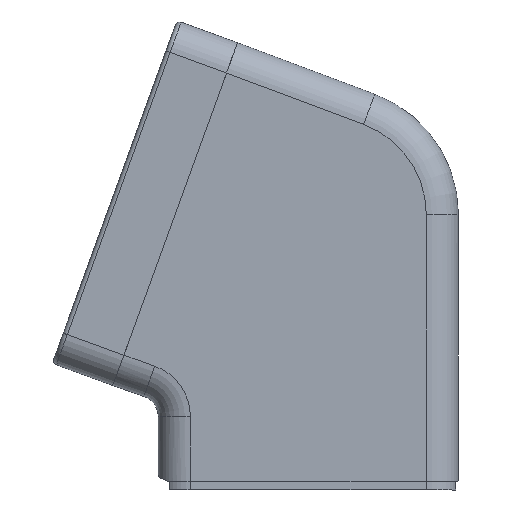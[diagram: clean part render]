
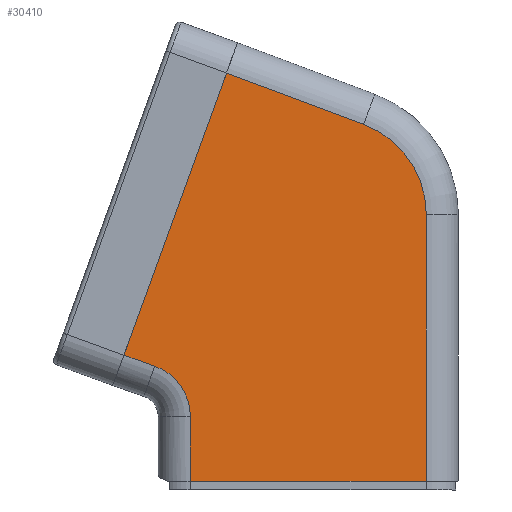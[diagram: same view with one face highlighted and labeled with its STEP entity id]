
A CAD part, left-side view. The second image highlights one B-rep face of the part: STEP entity #30410.
In plain terms, the highlighted planar face has unit normal (-1, 0, 0).
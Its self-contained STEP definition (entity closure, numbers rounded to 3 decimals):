
#1954 = CARTESIAN_POINT ( 'NONE',  ( -42.5, -27.5, 0. ) ) ;
#2142 = DIRECTION ( 'NONE',  ( 0., -0.342, 0.94 ) ) ;
#2631 = ORIENTED_EDGE ( 'NONE', *, *, #8810, .T. ) ;
#2641 = CARTESIAN_POINT ( 'NONE',  ( -42.5, 27.5, 0. ) ) ;
#3004 = DIRECTION ( 'NONE',  ( 0., 0.937, 0.35 ) ) ;
#3562 = CARTESIAN_POINT ( 'NONE',  ( -42.5, 19.085, 95.214 ) ) ;
#4193 = VERTEX_POINT ( 'NONE', #31134 ) ;
#4215 = CARTESIAN_POINT ( 'NONE',  ( -42.5, 27.5, 15.104 ) ) ;
#5203 = EDGE_CURVE ( 'NONE', #14668, #15455, #7699, .T. ) ;
#5363 = CARTESIAN_POINT ( 'NONE',  ( -42.5, 15.5, 0. ) ) ;
#5655 = ORIENTED_EDGE ( 'NONE', *, *, #8606, .T. ) ;
#5707 = CARTESIAN_POINT ( 'NONE',  ( -42.5, 35.827, 26.887 ) ) ;
#6115 = ORIENTED_EDGE ( 'NONE', *, *, #5203, .F. ) ;
#6171 = PLANE ( 'NONE',  #7111 ) ;
#7111 = AXIS2_PLACEMENT_3D ( 'NONE', #8790, #25783, #11277 ) ;
#7699 = LINE ( 'NONE', #16900, #25613 ) ;
#8468 = VERTEX_POINT ( 'NONE', #4215 ) ;
#8511 = EDGE_CURVE ( 'NONE', #10442, #8468, #18066, .T. ) ;
#8552 = EDGE_CURVE ( 'NONE', #8468, #24808, #27740, .T. ) ;
#8606 = EDGE_CURVE ( 'NONE', #23335, #11175, #24032, .T. ) ;
#8693 = EDGE_CURVE ( 'NONE', #11175, #4193, #18786, .T. ) ;
#8742 = EDGE_CURVE ( 'NONE', #4193, #15455, #9931, .T. ) ;
#8790 = CARTESIAN_POINT ( 'NONE',  ( -42.5, -34.5, 0.5 ) ) ;
#8810 = EDGE_CURVE ( 'NONE', #14668, #10442, #19176, .T. ) ;
#9643 = CARTESIAN_POINT ( 'NONE',  ( -42.5, 27.5, 1.61 ) ) ;
#9931 = LINE ( 'NONE', #20194, #16530 ) ;
#10287 = CARTESIAN_POINT ( 'NONE',  ( -42.5, -5., 62.188 ) ) ;
#10442 = VERTEX_POINT ( 'NONE', #29906 ) ;
#10719 = DIRECTION ( 'NONE',  ( 0., -0.943, -0.334 ) ) ;
#10744 = ORIENTED_EDGE ( 'NONE', *, *, #8693, .T. ) ;
#11175 = VERTEX_POINT ( 'NONE', #14512 ) ;
#11277 = DIRECTION ( 'NONE',  ( 0., 0., 1. ) ) ;
#11599 = VECTOR ( 'NONE', #22590, 1000. ) ;
#12777 = DIRECTION ( 'NONE',  ( 0., 0., 1. ) ) ;
#13227 = FACE_OUTER_BOUND ( 'NONE', #23302, .T. ) ;
#13805 = ORIENTED_EDGE ( 'NONE', *, *, #25281, .F. ) ;
#14404 = DIRECTION ( 'NONE',  ( 1., 0., 0. ) ) ;
#14512 = CARTESIAN_POINT ( 'NONE',  ( -42.5, -27.5, 62.188 ) ) ;
#14668 = VERTEX_POINT ( 'NONE', #15341 ) ;
#14995 = VECTOR ( 'NONE', #26568, 1000. ) ;
#15341 = CARTESIAN_POINT ( 'NONE',  ( -42.5, 43.026, 29.436 ) ) ;
#15455 = VERTEX_POINT ( 'NONE', #3562 ) ;
#15708 = ORIENTED_EDGE ( 'NONE', *, *, #8511, .T. ) ;
#16530 = VECTOR ( 'NONE', #3004, 1000. ) ;
#16900 = CARTESIAN_POINT ( 'NONE',  ( -42.5, 17.546, 99.443 ) ) ;
#17654 = VECTOR ( 'NONE', #31587, 1000. ) ;
#18066 = CIRCLE ( 'NONE', #21008, 12.5 ) ;
#18786 = CIRCLE ( 'NONE', #20130, 22.5 ) ;
#19176 = LINE ( 'NONE', #5707, #25504 ) ;
#20130 = AXIS2_PLACEMENT_3D ( 'NONE', #10287, #27183, #12777 ) ;
#20194 = CARTESIAN_POINT ( 'NONE',  ( -42.5, 19.146, 95.237 ) ) ;
#21008 = AXIS2_PLACEMENT_3D ( 'NONE', #28759, #14404, #31161 ) ;
#22079 = CARTESIAN_POINT ( 'NONE',  ( -42.5, -27.5, 62.188 ) ) ;
#22590 = DIRECTION ( 'NONE',  ( 0., 1., 0. ) ) ;
#23302 = EDGE_LOOP ( 'NONE', ( #15708, #26199, #13805, #5655, #10744, #30356, #6115, #2631 ) ) ;
#23335 = VERTEX_POINT ( 'NONE', #1954 ) ;
#24032 = LINE ( 'NONE', #22079, #17654 ) ;
#24499 = LINE ( 'NONE', #5363, #11599 ) ;
#24808 = VERTEX_POINT ( 'NONE', #2641 ) ;
#25281 = EDGE_CURVE ( 'NONE', #23335, #24808, #24499, .T. ) ;
#25504 = VECTOR ( 'NONE', #10719, 1000. ) ;
#25613 = VECTOR ( 'NONE', #2142, 1000. ) ;
#25783 = DIRECTION ( 'NONE',  ( -1., 0., 0. ) ) ;
#26199 = ORIENTED_EDGE ( 'NONE', *, *, #8552, .T. ) ;
#26568 = DIRECTION ( 'NONE',  ( 0., 0., -1. ) ) ;
#27183 = DIRECTION ( 'NONE',  ( -1., 0., 0. ) ) ;
#27740 = LINE ( 'NONE', #9643, #14995 ) ;
#28759 = CARTESIAN_POINT ( 'NONE',  ( -42.5, 40., 15.104 ) ) ;
#29906 = CARTESIAN_POINT ( 'NONE',  ( -42.5, 35.827, 26.887 ) ) ;
#30356 = ORIENTED_EDGE ( 'NONE', *, *, #8742, .T. ) ;
#30410 = ADVANCED_FACE ( 'NONE', ( #13227 ), #6171, .T. ) ;
#31134 = CARTESIAN_POINT ( 'NONE',  ( -42.5, -12.88, 83.263 ) ) ;
#31161 = DIRECTION ( 'NONE',  ( 0., 0., 1. ) ) ;
#31587 = DIRECTION ( 'NONE',  ( 0., 0., 1. ) ) ;
